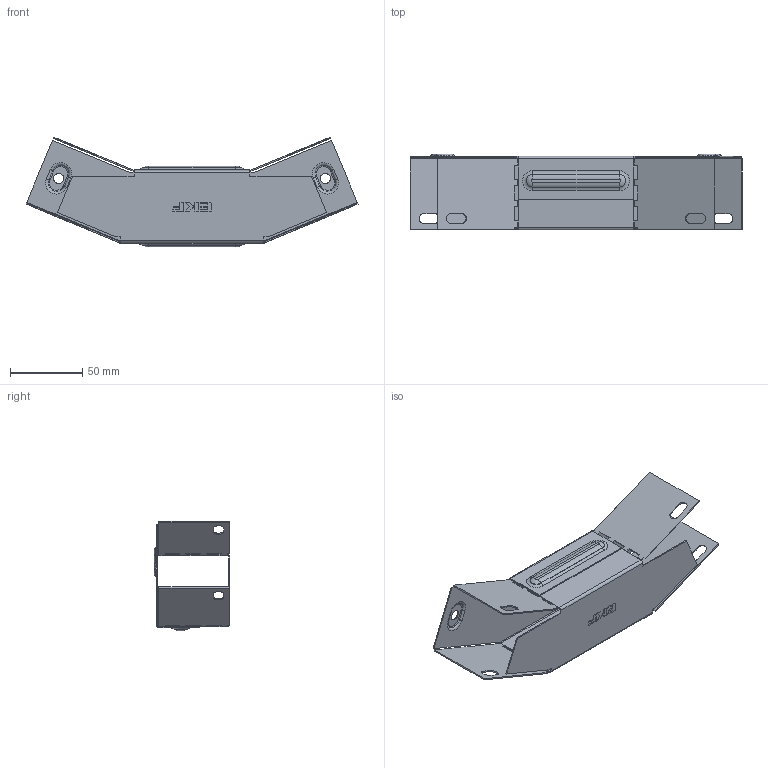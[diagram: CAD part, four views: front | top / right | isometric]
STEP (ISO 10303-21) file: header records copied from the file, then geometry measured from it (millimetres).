
FILE_DESCRIPTION (( 'STEP AP214' ), '1' );
FILE_NAME ('g455050_捘.STEP', '2019-06-10T08:37:07', ( '砐錪賧瘔蠈錪 Windows' ), ( '' ), 'SwSTEP 2.0', 'SolidWorks 2018', '' );
FILE_SCHEMA (( 'AUTOMOTIVE_DESIGN' ));
Length unit declared in the file: millimetre
Products named in the file (1): g455050_捘
Bounding box: 229.22 x 52.3 x 75.7 mm (x, y, z)
Volume: 35271.5 mm3; surface area: 90026.3 mm2
Topology: 2 solids, 2 shells, 452 faces, 1236 edges, 788 vertices
Faces by surface type: plane 270, cylinder 116, torus 48, bspline 18
Entity records: 15168 total; most frequent: CARTESIAN_POINT 3496, ORIENTED_EDGE 2472, DIRECTION 2374, EDGE_CURVE 1236, LINE 896, VECTOR 896, VERTEX_POINT 788, AXIS2_PLACEMENT_3D 739
